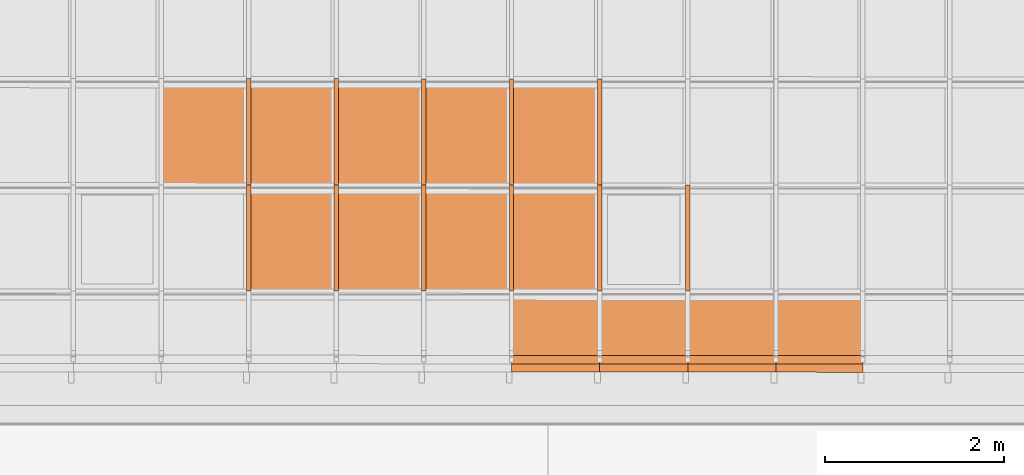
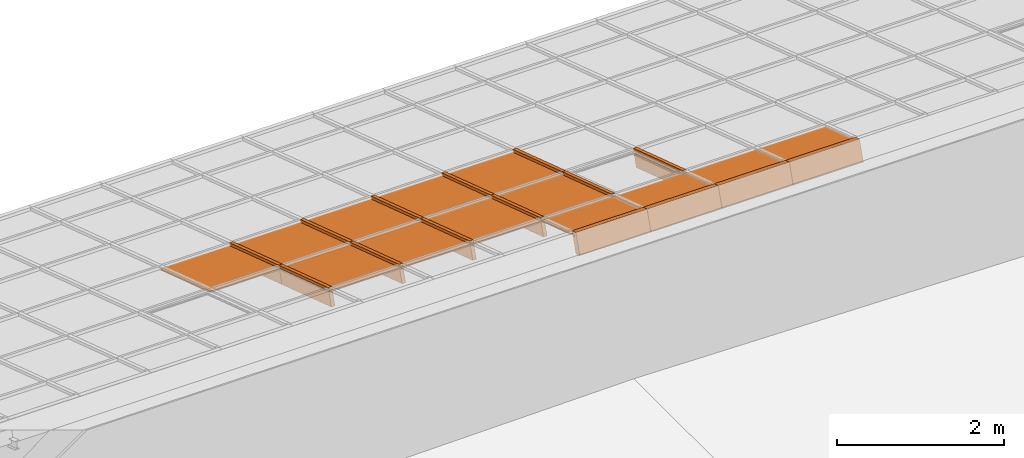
# One storey, part 34 of 47: 28 proxies, 1 element without a shape of its own.
"""IFC2X3 building model written with IfcOpenShell, lengths in millimetres."""

from ifc_helpers import new_model, entity, si_unit, converted_unit, derived_unit, money_unit, direction, frame, origin_with_axes, place, context, subcontext, project, spatial, polyline, outline, extrude, material, material_list, type_object, element, aggregate, save


model = new_model("IFC2X3")

# Units and contexts
model_context = context("Model", 3, precision=1e-05, world=origin_with_axes(), true_north=direction((0.0, 1.0)))
body_context = subcontext(model_context, "Body", "Model", "MODEL_VIEW")
ifc_project = project(units=[si_unit("LENGTHUNIT", "METRE", prefix="MILLI"), si_unit("AREAUNIT", "SQUARE_METRE"), si_unit("VOLUMEUNIT", "CUBIC_METRE"), converted_unit("PLANEANGLEUNIT", "DEGREE", entity("IfcPlaneAngleMeasure", 0.0174532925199), si_unit("PLANEANGLEUNIT", "RADIAN"), dimensions=[0, 0, 0, 0, 0, 0, 0]), si_unit("SOLIDANGLEUNIT", "STERADIAN"), money_unit("EUR"), converted_unit("TIMEUNIT", "Year", entity("IfcTimeMeasure", 31556926.0), si_unit("TIMEUNIT", "SECOND"), dimensions=[0, 0, 1, 0, 0, 0, 0]), si_unit("MASSUNIT", "GRAM", prefix="KILO"), si_unit("THERMODYNAMICTEMPERATUREUNIT", "DEGREE_CELSIUS"), si_unit("LUMINOUSINTENSITYUNIT", "LUMEN"), si_unit("ENERGYUNIT", "JOULE", prefix="MEGA"), derived_unit("THERMALCONDUCTANCEUNIT", [(si_unit("POWERUNIT", "WATT"), 1), (si_unit("LENGTHUNIT", "METRE"), -1), (si_unit("THERMODYNAMICTEMPERATUREUNIT", "KELVIN"), -1)]), derived_unit("SPECIFICHEATCAPACITYUNIT", [(si_unit("ENERGYUNIT", "JOULE"), 1), (si_unit("MASSUNIT", "GRAM", prefix="KILO"), -1), (si_unit("THERMODYNAMICTEMPERATUREUNIT", "KELVIN"), -1)]), derived_unit("MASSDENSITYUNIT", [(si_unit("MASSUNIT", "GRAM", prefix="KILO"), 1), (si_unit("VOLUMEUNIT", "CUBIC_METRE"), -1)])], contexts=[model_context])

# Site, building, storey
site_placement = place(None, origin_with_axes())
site = spatial("IfcSite", under=ifc_project, at=site_placement, Name="Site", CompositionType="ELEMENT")
building_placement = place(site_placement, origin_with_axes())
building = spatial("IfcBuilding", under=site, at=building_placement, Name="Building", CompositionType="ELEMENT")
storey_placement = place(building_placement, frame((0.0, 0.0, 6000.0), z_axis=(0.0, 0.0, 1.0), x_axis=(1.0, 0.0, 0.0)))
storey = spatial("IfcBuildingStorey", under=building, at=storey_placement, Name="KATUSEPLAAN", CompositionType="ELEMENT", Elevation=6000.0)

# Curtain wall, proxies
curtain_wall_type = type_object("IfcCurtainWallType", Name="KK-2", PredefinedType="NOTDEFINED")
curtain_wall_placement = place(storey_placement, frame((71638.1505463, 41358.6055567, 722.550081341), z_axis=(0.0, 0.0, 1.0), x_axis=(1.0, 0.0, 0.0)))
curtain_wall = element("IfcCurtainWall", 1, at=curtain_wall_placement, inside=storey, type_object=curtain_wall_type, Name="Talveaja klaaskatus")
ifc_material_1 = material(Name="Alumiinium (1)")
ifc_material_list = material_list([ifc_material_1, ifc_material_1])
building_element_proxy_type_1 = type_object("IfcBuildingElementProxyType", Name="Frame-Mll-595", PredefinedType="NOTDEFINED")
proxy_1_placement = place(curtain_wall_placement, frame((3429.9985464, 2850.739207, 1039.74580126), z_axis=(0.0, -0.950019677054, 0.312190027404), x_axis=(-0.999999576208, 0.000287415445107, 0.00087462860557)))
proxy_1 = element("IfcBuildingElementProxy", 2, at=proxy_1_placement, type_object=building_element_proxy_type_1, material=ifc_material_list, Name="Alumiinium (1);  Objekti nimi: Frame 22", context=body_context, shape_type="SweptSolid", body=[
    extrude(outline(polyline([(25.0091958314, 9.9769796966), (25.1841179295, 199.976899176), (-24.8158608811, 200.022931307), (-24.9907829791, 10.0230118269), (25.0091958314, 9.9769796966)])), frame((0.0, 0.0, 0.0), z_axis=(0.0, 0.0, 1.0), x_axis=(0.999999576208, 0.00092064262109, 0.0)), (0.0, 0.0, 1.0), 1250.0),
    extrude(outline(polyline([(-25.0091958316, -9.97697969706), (-25.0460215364, -49.9769627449), (24.9539572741, -50.0229948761), (24.9907829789, -10.0230118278), (-25.0091958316, -9.97697969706)])), frame((0.0, 0.0, 0.0), z_axis=(0.0, 0.0, 1.0), x_axis=(0.999999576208, 0.00092064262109, 0.0)), (0.0, 0.0, 1.0), 1250.0),
])
building_element_proxy_type_2 = type_object("IfcBuildingElementProxyType", Name="Frame-Mll-596", PredefinedType="NOTDEFINED")
proxy_2_placement = place(curtain_wall_placement, frame((4409.99813108, 2850.45753986, 1038.88866523), z_axis=(0.0, -0.950019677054, 0.312190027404), x_axis=(-0.999999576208, 0.000287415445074, 0.000874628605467)))
proxy_2 = element("IfcBuildingElementProxy", 3, at=proxy_2_placement, type_object=building_element_proxy_type_2, material=ifc_material_list, Name="Alumiinium (1);  Objekti nimi: Frame 22", context=body_context, shape_type="SweptSolid", body=[
    extrude(outline(polyline([(25.0091958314, 9.97697969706), (25.1841179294, 199.976899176), (-24.8158608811, 200.022931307), (-24.9907829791, 10.0230118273), (25.0091958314, 9.97697969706)])), frame((0.0, 0.0, -2.72848410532e-09), z_axis=(0.0, 0.0, 1.0), x_axis=(0.999999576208, 0.000920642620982, 0.0)), (0.0, 0.0, 1.0), 1250.0),
    extrude(outline(polyline([(-25.0091958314, -9.9769796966), (-25.0460215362, -49.9769627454), (24.9539572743, -50.0229948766), (24.9907829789, -10.0230118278), (-25.0091958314, -9.9769796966)])), frame((0.0, 0.0, -1.81898940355e-09), z_axis=(0.0, 0.0, 1.0), x_axis=(0.999999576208, 0.000920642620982, 0.0)), (0.0, 0.0, 1.0), 1250.0),
])
ifc_material_2 = material(Name="Klaas")
building_element_proxy_type_3 = type_object("IfcBuildingElementProxyType", Name="Panel-Main-163", PredefinedType="NOTDEFINED")
proxy_3_placement = place(curtain_wall_placement, frame((4902.99792215, 1069.02894957, 1623.81377471), z_axis=(0.0, 0.0, 1.0), x_axis=(-0.999995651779, 0.00294896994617, 0.0)))
proxy_3 = element("IfcBuildingElementProxy", 4, at=proxy_3_placement, type_object=building_element_proxy_type_3, material=ifc_material_2, Name="Klaas;  Objekti nimi: Built-in CW Panel", context=body_context, shape_type="SweptSolid", body=[
    extrude(outline(polyline([(491.233067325, -631.37870629), (491.247085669, -626.378729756), (496.247062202, -626.392729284), (499.749032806, 623.602363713), (494.749056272, 623.616363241), (494.7630558, 628.616358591), (-491.233080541, 631.37870629), (-491.247080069, 626.378710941), (-496.247075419, 626.392729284), (-499.749046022, -623.602344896), (-494.749050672, -623.61636324), (-494.763069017, -628.616339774), (491.233067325, -631.37870629)])), frame((0.0, -3.1219125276, 9.50019274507), z_axis=(0.0, 0.312191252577, -0.950019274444), x_axis=(1.0, 0.0, 0.0)), (0.0, 0.0, 1.0), 20.0000000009),
])
building_element_proxy_type_4 = type_object("IfcBuildingElementProxyType", Name="Panel-Main-107", PredefinedType="NOTDEFINED")
proxy_4_placement = place(curtain_wall_placement, frame((1959.99916937, 2257.39940954, 1236.15027244), z_axis=(0.0, 0.0, 1.0), x_axis=(-0.999995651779, 0.00294896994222, 0.0)))
proxy_4 = element("IfcBuildingElementProxy", 5, at=proxy_4_placement, type_object=building_element_proxy_type_4, material=ifc_material_2, Name="Klaas;  Objekti nimi: Built-in CW Panel", context=body_context, shape_type="SweptSolid", body=[
    extrude(outline(polyline([(488.23307956, -631.370301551), (488.247097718, -626.370316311), (493.247064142, -626.384334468), (496.749044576, 623.610771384), (491.749059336, 623.624770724), (491.763077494, 628.624755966), (-488.233069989, 631.370301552), (-488.247088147, 626.37031631), (-493.247073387, 626.384315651), (-496.749035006, -623.610752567), (-491.749049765, -623.624770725), (-491.763067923, -628.624755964), (488.23307956, -631.370301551)])), frame((0.0, -3.12191252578, 9.50019274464), z_axis=(0.0, 0.312191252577, -0.950019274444), x_axis=(1.0, 0.0, 0.0)), (0.0, 0.0, 1.0), 20.0000000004),
])
building_element_proxy_type_5 = type_object("IfcBuildingElementProxyType", Name="Panel-Dist-149", PredefinedType="NOTDEFINED")
proxy_5_placement = place(curtain_wall_placement, frame((979.999584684, 2257.68107668, 1237.00740847), z_axis=(0.0, 0.0, 1.0), x_axis=(-0.999995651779, 0.00294896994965, 0.0)))
proxy_5 = element("IfcBuildingElementProxy", 6, at=proxy_5_placement, type_object=building_element_proxy_type_5, material=ifc_material_2, Name="Klaas;  Objekti nimi: Built-in CW Panel", context=body_context, shape_type="SweptSolid", body=[
    extrude(outline(polyline([(488.233079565, -631.370301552), (488.247097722, -626.37031631), (493.247064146, -626.384334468), (496.749044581, 623.610771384), (491.749059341, 623.624770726), (491.763077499, 628.624755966), (-488.233069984, 631.37030155), (-488.247088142, 626.370316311), (-493.247073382, 626.384315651), (-496.749035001, -623.610752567), (-491.749049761, -623.624770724), (-491.763067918, -628.624755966), (488.233079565, -631.370301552)])), frame((1.13686837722e-10, -3.12191252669, 9.50019274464), z_axis=(0.0, 0.312191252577, -0.950019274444), x_axis=(1.0, 0.0, 0.0)), (0.0, 0.0, 1.0), 20.0000000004),
])
building_element_proxy_type_6 = type_object("IfcBuildingElementProxyType", Name="Panel-Dist-151", PredefinedType="NOTDEFINED")
proxy_6_placement = place(curtain_wall_placement, frame((4902.99792215, 2256.55354589, 1233.57624045), z_axis=(0.0, 0.0, 1.0), x_axis=(-0.999995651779, 0.00294896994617, 0.0)))
proxy_6 = element("IfcBuildingElementProxy", 7, at=proxy_6_placement, type_object=building_element_proxy_type_6, material=ifc_material_2, Name="Klaas;  Objekti nimi: Built-in CW Panel", context=body_context, shape_type="SweptSolid", body=[
    extrude(outline(polyline([(491.233067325, -631.378706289), (491.247085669, -626.378729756), (496.247062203, -626.392729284), (499.749032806, 623.602363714), (494.749056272, 623.616363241), (494.7630558, 628.616358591), (-491.233080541, 631.378706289), (-491.247080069, 626.37871094), (-496.247075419, 626.392729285), (-499.749046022, -623.602344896), (-494.749050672, -623.616363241), (-494.763069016, -628.616339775), (491.233067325, -631.378706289)])), frame((1.13686837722e-10, -3.12191252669, 9.50019274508), z_axis=(0.0, 0.312191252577, -0.950019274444), x_axis=(1.0, 0.0, 0.0)), (0.0, 0.0, 1.0), 20.0000000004),
])
building_element_proxy_type_7 = type_object("IfcBuildingElementProxyType", Name="Panel-Main-108", PredefinedType="NOTDEFINED")
proxy_7_placement = place(curtain_wall_placement, frame((3919.99833874, 2256.83607527, 1234.43600037), z_axis=(0.0, 0.0, 1.0), x_axis=(-0.999995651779, 0.00294896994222, 0.0)))
proxy_7 = element("IfcBuildingElementProxy", 8, at=proxy_7_placement, type_object=building_element_proxy_type_7, material=ifc_material_2, Name="Klaas;  Objekti nimi: Built-in CW Panel", context=body_context, shape_type="SweptSolid", body=[
    extrude(outline(polyline([(488.23307956, -631.370301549), (488.247078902, -626.370316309), (493.247082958, -626.384315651), (496.749044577, 623.610771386), (491.749059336, 623.624770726), (491.763077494, 628.624755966), (-488.233088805, 631.370301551), (-488.247088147, 626.370335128), (-493.247073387, 626.384334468), (-496.749035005, -623.610771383), (-491.749049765, -623.624770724), (-491.763067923, -628.624737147), (488.23307956, -631.370301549)])), frame((1.13686837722e-10, -3.12191252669, 9.50019274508), z_axis=(0.0, 0.312191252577, -0.950019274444), x_axis=(1.0, 0.0, 0.0)), (0.0, 0.0, 1.0), 20.0000000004),
])
building_element_proxy_type_8 = type_object("IfcBuildingElementProxyType", Name="Panel-Dist-150", PredefinedType="NOTDEFINED")
proxy_8_placement = place(curtain_wall_placement, frame((2939.99875405, 2257.11774241, 1235.2931364), z_axis=(0.0, 0.0, 1.0), x_axis=(-0.999995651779, 0.00294896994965, 0.0)))
proxy_8 = element("IfcBuildingElementProxy", 9, at=proxy_8_placement, type_object=building_element_proxy_type_8, material=ifc_material_2, Name="Klaas;  Objekti nimi: Built-in CW Panel", context=body_context, shape_type="SweptSolid", body=[
    extrude(outline(polyline([(488.233079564, -631.370301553), (488.247097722, -626.370316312), (493.247064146, -626.384334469), (496.749044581, 623.610771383), (491.74905934, 623.624770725), (491.763077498, 628.624755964), (-488.233069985, 631.37030155), (-488.247088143, 626.37031631), (-493.247073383, 626.384315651), (-496.749035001, -623.610752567), (-491.749049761, -623.624770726), (-491.763067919, -628.624755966), (488.233079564, -631.370301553)])), frame((0.0, -3.12191252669, 9.50019274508), z_axis=(0.0, 0.312191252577, -0.950019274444), x_axis=(1.0, 0.0, 0.0)), (0.0, 0.0, 1.0), 20.0000000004),
])
building_element_proxy_type_9 = type_object("IfcBuildingElementProxyType", Name="Panel-Main-165", PredefinedType="NOTDEFINED")
proxy_9_placement = place(curtain_wall_placement, frame((2939.99875405, 1069.59314609, 1625.53067066), z_axis=(0.0, 0.0, 1.0), x_axis=(-0.999995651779, 0.00294896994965, 0.0)))
proxy_9 = element("IfcBuildingElementProxy", 10, at=proxy_9_placement, type_object=building_element_proxy_type_9, material=ifc_material_2, Name="Klaas;  Objekti nimi: Built-in CW Panel", context=body_context, shape_type="SweptSolid", body=[
    extrude(outline(polyline([(488.233079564, -631.370301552), (488.247097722, -626.370316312), (493.247064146, -626.384334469), (496.749044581, 623.610771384), (491.74905934, 623.624770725), (491.763077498, 628.624755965), (-488.233069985, 631.37030155), (-488.247088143, 626.37031631), (-493.247073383, 626.384315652), (-496.749035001, -623.610752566), (-491.749049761, -623.624770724), (-491.763067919, -628.624755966), (488.233079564, -631.370301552)])), frame((0.0, -3.12191252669, 9.50019274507), z_axis=(0.0, 0.312191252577, -0.950019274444), x_axis=(1.0, 0.0, 0.0)), (0.0, 0.0, 1.0), 20.0000000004),
])
building_element_proxy_type_10 = type_object("IfcBuildingElementProxyType", Name="Panel-Main-215", PredefinedType="NOTDEFINED")
proxy_10_placement = place(curtain_wall_placement, frame((7854.49667133, -2.25750461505, 1972.99356414), z_axis=(0.0, 0.0, 1.0), x_axis=(-0.999995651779, 0.00294896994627, 0.0)))
proxy_10 = element("IfcBuildingElementProxy", 11, at=proxy_10_placement, type_object=building_element_proxy_type_10, material=ifc_material_2, Name="Klaas;  Objekti nimi: Built-in CW Panel", context=body_context, shape_type="SweptSolid", body=[
    extrude(outline(polyline([(490.647783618, -304.88309138), (492.903773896, 500.374714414), (487.903783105, 500.388720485), (487.917789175, 505.388681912), (-485.078383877, 508.114638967), (-485.092389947, 503.114648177), (-490.092366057, 503.128668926), (-492.348371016, -302.12915155), (-487.348380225, -302.143157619), (-487.292370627, -282.143238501), (485.703831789, -284.869180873), (485.647792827, -304.869085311), (490.647783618, -304.88309138)])), frame((1.13686837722e-10, -3.12191252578, 9.50019274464), z_axis=(0.0, 0.312191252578, -0.950019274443), x_axis=(1.0, 0.0, 0.0)), (0.0, 0.0, 1.0), 20.0000000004),
])
building_element_proxy_type_11 = type_object("IfcBuildingElementProxyType", Name="Panel-Main-166", PredefinedType="NOTDEFINED")
proxy_11_placement = place(curtain_wall_placement, frame((1959.99916937, 1069.87481323, 1626.38780669), z_axis=(0.0, 0.0, 1.0), x_axis=(-0.999995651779, 0.00294896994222, 0.0)))
proxy_11 = element("IfcBuildingElementProxy", 12, at=proxy_11_placement, type_object=building_element_proxy_type_11, material=ifc_material_2, Name="Klaas;  Objekti nimi: Built-in CW Panel", context=body_context, shape_type="SweptSolid", body=[
    extrude(outline(polyline([(488.23307956, -631.37030155), (488.247078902, -626.37031631), (493.247082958, -626.384315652), (496.749044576, 623.610771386), (491.749059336, 623.624770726), (491.763077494, 628.624755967), (-488.233088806, 631.370301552), (-488.247088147, 626.370335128), (-493.247073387, 626.384334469), (-496.749035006, -623.610771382), (-491.749049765, -623.624770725), (-491.763067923, -628.624737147), (488.23307956, -631.37030155)])), frame((0.0, -3.12191252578, 9.50019274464), z_axis=(0.0, 0.312191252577, -0.950019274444), x_axis=(1.0, 0.0, 0.0)), (0.0, 0.0, 1.0), 20.0000000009),
])
building_element_proxy_type_12 = type_object("IfcBuildingElementProxyType", Name="Panel-Main-164", PredefinedType="NOTDEFINED")
proxy_12_placement = place(curtain_wall_placement, frame((3919.99833874, 1069.31147895, 1624.67353462), z_axis=(0.0, 0.0, 1.0), x_axis=(-0.999995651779, 0.00294896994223, 0.0)))
proxy_12 = element("IfcBuildingElementProxy", 13, at=proxy_12_placement, type_object=building_element_proxy_type_12, material=ifc_material_2, Name="Klaas;  Objekti nimi: Built-in CW Panel", context=body_context, shape_type="SweptSolid", body=[
    extrude(outline(polyline([(488.23307956, -631.370301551), (488.247097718, -626.370316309), (493.247064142, -626.384334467), (496.749044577, 623.610771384), (491.749059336, 623.624770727), (491.763077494, 628.624755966), (-488.233069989, 631.370301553), (-488.247088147, 626.370316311), (-493.247073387, 626.384315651), (-496.749035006, -623.610752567), (-491.749049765, -623.624770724), (-491.763067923, -628.624755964), (488.23307956, -631.370301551)])), frame((0.0, -3.1219125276, 9.50019274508), z_axis=(0.0, 0.312191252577, -0.950019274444), x_axis=(1.0, 0.0, 0.0)), (0.0, 0.0, 1.0), 20.0000000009),
])
building_element_proxy_type_13 = type_object("IfcBuildingElementProxyType", Name="Panel-Main-217", PredefinedType="NOTDEFINED")
proxy_13_placement = place(curtain_wall_placement, frame((5888.99750429, -1.69258955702, 1974.71264667), z_axis=(0.0, 0.0, 1.0), x_axis=(-0.999995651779, 0.00294896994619, 0.0)))
proxy_13 = element("IfcBuildingElementProxy", 14, at=proxy_13_placement, type_object=building_element_proxy_type_13, material=ifc_material_2, Name="Klaas;  Objekti nimi: Built-in CW Panel", context=body_context, shape_type="SweptSolid", body=[
    extrude(outline(polyline([(497.147741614, -304.901316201), (499.403748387, 500.356503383), (494.403771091, 500.370515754), (494.417768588, 505.37049305), (-491.578349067, 508.132849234), (-491.592346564, 503.13287194), (-496.592353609, 503.14688431), (-498.848345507, -302.110935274), (-493.848368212, -302.124947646), (-493.792333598, -282.12502359), (492.203784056, -284.887394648), (492.147764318, -304.887303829), (497.147741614, -304.901316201)])), frame((0.0, -3.12191252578, 9.50019274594), z_axis=(0.0, 0.312191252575, -0.950019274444), x_axis=(1.0, 0.0, 0.0)), (0.0, 0.0, 1.0), 20.0000000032),
])
building_element_proxy_type_14 = type_object("IfcBuildingElementProxyType", Name="Panel-Main-216", PredefinedType="NOTDEFINED")
proxy_14_placement = place(curtain_wall_placement, frame((6874.99708643, -1.97598118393, 1973.85026286), z_axis=(0.0, 0.0, 1.0), x_axis=(-0.999995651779, 0.00294896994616, 0.0)))
proxy_14 = element("IfcBuildingElementProxy", 15, at=proxy_14_placement, type_object=building_element_proxy_type_14, material=ifc_material_2, Name="Klaas;  Objekti nimi: Built-in CW Panel", context=body_context, shape_type="SweptSolid", body=[
    extrude(outline(polyline([(497.147741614, -304.901316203), (499.403748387, 500.356503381), (494.403771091, 500.370515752), (494.417768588, 505.370493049), (-491.578349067, 508.132849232), (-491.592346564, 503.132871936), (-496.592353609, 503.146884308), (-498.848345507, -302.110935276), (-493.848368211, -302.12494765), (-493.792333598, -282.125023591), (492.203784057, -284.88739465), (492.147764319, -304.887303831), (497.147741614, -304.901316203)])), frame((1.13686837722e-10, -3.12191252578, 9.50019274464), z_axis=(0.0, 0.312191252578, -0.950019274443), x_axis=(1.0, 0.0, 0.0)), (0.0, 0.0, 1.0), 20.0000000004),
])
building_element_proxy_type_15 = type_object("IfcBuildingElementProxyType", Name="Panel-Main-218", PredefinedType="NOTDEFINED")
proxy_15_placement = place(curtain_wall_placement, frame((4902.99792215, -1.40919793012, 1975.57503047), z_axis=(0.0, 0.0, 1.0), x_axis=(-0.999995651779, 0.00294896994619, 0.0)))
proxy_15 = element("IfcBuildingElementProxy", 16, at=proxy_15_placement, type_object=building_element_proxy_type_15, material=ifc_material_2, Name="Klaas;  Objekti nimi: Built-in CW Panel", context=body_context, shape_type="SweptSolid", body=[
    extrude(outline(polyline([(497.147741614, -304.901316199), (499.403748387, 500.356503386), (494.403771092, 500.370515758), (494.417768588, 505.370493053), (-491.578349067, 508.132849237), (-491.592346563, 503.132857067), (-496.592353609, 503.146869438), (-498.848345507, -302.110935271), (-493.848368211, -302.124947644), (-493.792333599, -282.125038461), (492.203798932, -284.887379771), (492.147764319, -304.887318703), (497.147741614, -304.901316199)])), frame((1.13686837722e-10, -3.12191252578, 9.50019274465), z_axis=(0.0, 0.312191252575, -0.950019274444), x_axis=(1.0, 0.0, 0.0)), (0.0, 0.0, 1.0), 20.0000000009),
])
building_element_proxy_type_16 = type_object("IfcBuildingElementProxyType", Name="Frame-Mll-065", PredefinedType="NOTDEFINED")
proxy_16_placement = place(curtain_wall_placement, frame((6381.99729536, 1662.36616029, 1427.40143187), z_axis=(0.0, -0.950019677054, 0.312190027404), x_axis=(-0.999999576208, 0.000287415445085, 0.000874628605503)))
proxy_16 = element("IfcBuildingElementProxy", 17, at=proxy_16_placement, type_object=building_element_proxy_type_16, material=ifc_material_list, Name="Alumiinium (1);  Objekti nimi: Frame 22", context=body_context, shape_type="SweptSolid", body=[
    extrude(outline(polyline([(25.0091958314, 9.97697969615), (25.1841179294, 199.976899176), (-24.8158608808, 200.022931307), (-24.9907829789, 10.0230118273), (25.0091958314, 9.97697969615)])), frame((0.0, -4.54747350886e-10, -9.09494701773e-10), z_axis=(0.0, 0.0, 1.0), x_axis=(0.999999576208, 0.00092064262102, 0.0)), (0.0, 0.0, 1.0), 1250.0),
    extrude(outline(polyline([(-25.0091958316, -9.97697969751), (-25.0460215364, -49.9769627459), (24.9539572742, -50.0229948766), (24.990782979, -10.0230118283), (-25.0091958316, -9.97697969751)])), frame((0.0, -4.54747350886e-10, -1.81898940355e-09), z_axis=(0.0, 0.0, 1.0), x_axis=(0.999999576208, 0.00092064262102, 0.0)), (0.0, 0.0, 1.0), 1250.0),
])
building_element_proxy_type_17 = type_object("IfcBuildingElementProxyType", Name="Frame-Mll-594", PredefinedType="NOTDEFINED")
proxy_17_placement = place(curtain_wall_placement, frame((2449.99896171, 2851.02087414, 1040.60293729), z_axis=(0.0, -0.950019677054, 0.312190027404), x_axis=(-0.999999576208, 0.000287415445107, 0.00087462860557)))
proxy_17 = element("IfcBuildingElementProxy", 18, at=proxy_17_placement, type_object=building_element_proxy_type_17, material=ifc_material_list, Name="Alumiinium (1);  Objekti nimi: Frame 22", context=body_context, shape_type="SweptSolid", body=[
    extrude(outline(polyline([(25.0091958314, 9.9769796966), (25.1841179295, 199.976899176), (-24.8158608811, 200.022931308), (-24.9907829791, 10.0230118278), (25.0091958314, 9.9769796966)])), frame((0.0, 0.0, 0.0), z_axis=(0.0, 0.0, 1.0), x_axis=(0.999999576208, 0.00092064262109, 0.0)), (0.0, 0.0, 1.0), 1250.0),
    extrude(outline(polyline([(-25.0091958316, -9.9769796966), (-25.0460215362, -49.9769627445), (24.9539572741, -50.0229948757), (24.990782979, -10.0230118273), (-25.0091958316, -9.9769796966)])), frame((0.0, 0.0, 0.0), z_axis=(0.0, 0.0, 1.0), x_axis=(0.999999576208, 0.00092064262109, 0.0)), (0.0, 0.0, 1.0), 1250.0),
])
building_element_proxy_type_18 = type_object("IfcBuildingElementProxyType", Name="Frame-Mll-593", PredefinedType="NOTDEFINED")
proxy_18_placement = place(curtain_wall_placement, frame((1469.99937703, 2851.30254127, 1041.46007333), z_axis=(0.0, -0.950019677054, 0.312190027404), x_axis=(-0.999999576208, 0.000287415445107, 0.00087462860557)))
proxy_18 = element("IfcBuildingElementProxy", 19, at=proxy_18_placement, type_object=building_element_proxy_type_18, material=ifc_material_list, Name="Alumiinium (1);  Objekti nimi: Frame 22", context=body_context, shape_type="SweptSolid", body=[
    extrude(outline(polyline([(25.0091958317, 9.97697969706), (25.1841179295, 199.976899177), (-24.8158608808, 200.022931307), (-24.9907829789, 10.0230118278), (25.0091958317, 9.97697969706)])), frame((0.0, 0.0, 0.0), z_axis=(0.0, 0.0, 1.0), x_axis=(0.999999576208, 0.00092064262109, 0.0)), (0.0, 0.0, 1.0), 1250.0),
    extrude(outline(polyline([(-25.0091958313, -9.9769796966), (-25.046021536, -49.9769627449), (24.9539572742, -50.0229948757), (24.9907829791, -10.0230118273), (-25.0091958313, -9.9769796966)])), frame((0.0, 0.0, -9.09494701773e-10), z_axis=(0.0, 0.0, 1.0), x_axis=(0.999999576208, 0.00092064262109, 0.0)), (0.0, 0.0, 1.0), 1250.0),
])
building_element_proxy_type_19 = type_object("IfcBuildingElementProxyType", Name="Frame-Mll-064", PredefinedType="NOTDEFINED")
proxy_19_placement = place(curtain_wall_placement, frame((5395.99771322, 1662.64955192, 1428.26381568), z_axis=(0.0, -0.950019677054, 0.312190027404), x_axis=(-0.999999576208, 0.000287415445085, 0.000874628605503)))
proxy_19 = element("IfcBuildingElementProxy", 20, at=proxy_19_placement, type_object=building_element_proxy_type_19, material=ifc_material_list, Name="Alumiinium (1);  Objekti nimi: Frame 22", context=body_context, shape_type="SweptSolid", body=[
    extrude(outline(polyline([(25.0091958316, 9.9769796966), (25.1841179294, 199.976899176), (-24.8158608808, 200.022931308), (-24.990782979, 10.0230118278), (25.0091958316, 9.9769796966)])), frame((0.0, 4.54747350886e-10, -2.72848410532e-09), z_axis=(0.0, 0.0, 1.0), x_axis=(0.999999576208, 0.000920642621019, 0.0)), (0.0, 0.0, 1.0), 1250.0),
    extrude(outline(polyline([(-25.0091958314, -9.97697969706), (-25.0460215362, -49.9769627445), (24.9539572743, -50.0229948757), (24.9907829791, -10.0230118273), (-25.0091958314, -9.97697969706)])), frame((0.0, 0.0, 0.0), z_axis=(0.0, 0.0, 1.0), x_axis=(0.999999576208, 0.000920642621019, 0.0)), (0.0, 0.0, 1.0), 1250.0),
])
building_element_proxy_type_20 = type_object("IfcBuildingElementProxyType", Name="Frame-Mll-597", PredefinedType="NOTDEFINED")
proxy_20_placement = place(curtain_wall_placement, frame((5395.99771322, 2850.17414823, 1038.02628142), z_axis=(0.0, -0.950019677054, 0.312190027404), x_axis=(-0.999999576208, 0.000287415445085, 0.000874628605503)))
proxy_20 = element("IfcBuildingElementProxy", 21, at=proxy_20_placement, type_object=building_element_proxy_type_20, material=ifc_material_list, Name="Alumiinium (1);  Objekti nimi: Frame 22", context=body_context, shape_type="SweptSolid", body=[
    extrude(outline(polyline([(25.0091958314, 9.97697969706), (25.1841179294, 199.976899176), (-24.8158608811, 200.022931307), (-24.9907829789, 10.0230118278), (25.0091958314, 9.97697969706)])), frame((0.0, -4.54747350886e-10, -1.81898940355e-09), z_axis=(0.0, 0.0, 1.0), x_axis=(0.999999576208, 0.00092064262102, 0.0)), (0.0, 0.0, 1.0), 1250.0),
    extrude(outline(polyline([(-25.0091958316, -9.9769796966), (-25.0460215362, -49.9769627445), (24.9539572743, -50.0229948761), (24.9907829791, -10.0230118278), (-25.0091958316, -9.9769796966)])), frame((0.0, 0.0, -9.09494701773e-10), z_axis=(0.0, 0.0, 1.0), x_axis=(0.999999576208, 0.00092064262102, 0.0)), (0.0, 0.0, 1.0), 1250.0),
])
building_element_proxy_type_21 = type_object("IfcBuildingElementProxyType", Name="Frame-Mll-061", PredefinedType="NOTDEFINED")
proxy_21_placement = place(curtain_wall_placement, frame((2449.99896171, 1663.49627782, 1430.84047155), z_axis=(0.0, -0.950019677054, 0.312190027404), x_axis=(-0.999999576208, 0.000287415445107, 0.00087462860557)))
proxy_21 = element("IfcBuildingElementProxy", 22, at=proxy_21_placement, type_object=building_element_proxy_type_21, material=ifc_material_list, Name="Alumiinium (1);  Objekti nimi: Frame 22", context=body_context, shape_type="SweptSolid", body=[
    extrude(outline(polyline([(25.0091958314, 9.9769796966), (25.1841179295, 199.976899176), (-24.8158608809, 200.022931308), (-24.990782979, 10.0230118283), (25.0091958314, 9.9769796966)])), frame((0.0, 0.0, 0.0), z_axis=(0.0, 0.0, 1.0), x_axis=(0.999999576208, 0.00092064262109, 0.0)), (0.0, 0.0, 1.0), 1250.0),
    extrude(outline(polyline([(-25.0091958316, -9.9769796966), (-25.0460215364, -49.9769627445), (24.9539572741, -50.0229948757), (24.990782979, -10.0230118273), (-25.0091958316, -9.9769796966)])), frame((0.0, 0.0, 0.0), z_axis=(0.0, 0.0, 1.0), x_axis=(0.999999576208, 0.00092064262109, 0.0)), (0.0, 0.0, 1.0), 1250.0),
])
building_element_proxy_type_22 = type_object("IfcBuildingElementProxyType", Name="Frame-Mll-060", PredefinedType="NOTDEFINED")
proxy_22_placement = place(curtain_wall_placement, frame((1469.99937703, 1663.77794495, 1431.69760758), z_axis=(0.0, -0.950019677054, 0.312190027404), x_axis=(-0.999999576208, 0.000287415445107, 0.00087462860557)))
proxy_22 = element("IfcBuildingElementProxy", 23, at=proxy_22_placement, type_object=building_element_proxy_type_22, material=ifc_material_list, Name="Alumiinium (1);  Objekti nimi: Frame 22", context=body_context, shape_type="SweptSolid", body=[
    extrude(outline(polyline([(25.0091958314, 9.97697969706), (25.1841179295, 199.976899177), (-24.8158608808, 200.022931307), (-24.9907829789, 10.0230118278), (25.0091958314, 9.97697969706)])), frame((0.0, 4.54747350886e-10, -1.81898940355e-09), z_axis=(0.0, 0.0, 1.0), x_axis=(0.999999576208, 0.00092064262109, 0.0)), (0.0, 0.0, 1.0), 1250.0),
    extrude(outline(polyline([(-25.0091958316, -9.97697969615), (-25.0460215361, -49.9769627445), (24.9539572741, -50.0229948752), (24.990782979, -10.0230118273), (-25.0091958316, -9.97697969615)])), frame((0.0, 4.54747350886e-10, -1.81898940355e-09), z_axis=(0.0, 0.0, 1.0), x_axis=(0.999999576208, 0.00092064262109, 0.0)), (0.0, 0.0, 1.0), 1250.0),
])
building_element_proxy_type_23 = type_object("IfcBuildingElementProxyType", Name="Frame-Bnd-651", PredefinedType="NOTDEFINED")
proxy_23_placement = place(curtain_wall_placement, frame((5395.99771322, -289.888818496, 2069.89579666), z_axis=(-0.999999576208, 0.000287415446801, 0.000874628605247), x_axis=(0.0, 0.950019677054, -0.312190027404)))
proxy_23 = element("IfcBuildingElementProxy", 24, at=proxy_23_placement, type_object=building_element_proxy_type_23, material=ifc_material_1, Name="Alumiinium (1);  Objekti nimi: Built-in Frame", context=body_context, shape_type="SweptSolid", body=[
    extrude(outline(polyline([(15.8784912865, 15.7439993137), (44.379080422, 25.1097037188), (-30.5465548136, 253.114416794), (-125.548518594, 221.895402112), (-31.8914745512, -63.1104892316), (63.1104892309, -31.8914745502), (50.6228833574, 6.10931096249), (22.1222942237, -3.25639344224), (15.8784912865, 15.7439993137)])), frame((0.0, 0.0, -5.68434188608e-10), z_axis=(0.0, 0.0, 1.0), x_axis=(0.950019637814, -0.312190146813, 0.0)), (0.0, 0.0, 1.0), 986.000000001),
])
building_element_proxy_type_24 = type_object("IfcBuildingElementProxyType", Name="Frame-Mll-062", PredefinedType="NOTDEFINED")
proxy_24_placement = place(curtain_wall_placement, frame((3429.9985464, 1663.21461068, 1429.98333551), z_axis=(0.0, -0.950019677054, 0.312190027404), x_axis=(-0.999999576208, 0.000287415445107, 0.00087462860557)))
proxy_24 = element("IfcBuildingElementProxy", 25, at=proxy_24_placement, type_object=building_element_proxy_type_24, material=ifc_material_list, Name="Alumiinium (1);  Objekti nimi: Frame 22", context=body_context, shape_type="SweptSolid", body=[
    extrude(outline(polyline([(25.0091958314, 9.9769796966), (25.1841179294, 199.976899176), (-24.8158608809, 200.022931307), (-24.9907829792, 10.0230118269), (25.0091958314, 9.9769796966)])), frame((0.0, 0.0, 0.0), z_axis=(0.0, 0.0, 1.0), x_axis=(0.999999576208, 0.00092064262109, 0.0)), (0.0, 0.0, 1.0), 1250.0),
    extrude(outline(polyline([(-25.0091958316, -9.97697969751), (-25.0460215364, -49.9769627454), (24.9539572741, -50.0229948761), (24.9907829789, -10.0230118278), (-25.0091958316, -9.97697969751)])), frame((0.0, 0.0, 0.0), z_axis=(0.0, 0.0, 1.0), x_axis=(0.999999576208, 0.00092064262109, 0.0)), (0.0, 0.0, 1.0), 1250.0),
])
building_element_proxy_type_25 = type_object("IfcBuildingElementProxyType", Name="Frame-Mll-063", PredefinedType="NOTDEFINED")
proxy_25_placement = place(curtain_wall_placement, frame((4409.99813108, 1662.93294355, 1429.12619948), z_axis=(0.0, -0.950019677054, 0.312190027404), x_axis=(-0.999999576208, 0.000287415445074, 0.000874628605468)))
proxy_25 = element("IfcBuildingElementProxy", 26, at=proxy_25_placement, type_object=building_element_proxy_type_25, material=ifc_material_list, Name="Alumiinium (1);  Objekti nimi: Frame 22", context=body_context, shape_type="SweptSolid", body=[
    extrude(outline(polyline([(25.0091958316, 9.9769796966), (25.1841179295, 199.976899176), (-24.8158608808, 200.022931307), (-24.9907829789, 10.0230118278), (25.0091958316, 9.9769796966)])), frame((0.0, 0.0, 0.0), z_axis=(0.0, 0.0, 1.0), x_axis=(0.999999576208, 0.000920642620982, 0.0)), (0.0, 0.0, 1.0), 1250.0),
    extrude(outline(polyline([(-25.0091958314, -9.97697969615), (-25.0460215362, -49.9769627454), (24.9539572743, -50.0229948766), (24.990782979, -10.0230118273), (-25.0091958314, -9.97697969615)])), frame((0.0, 0.0, 0.0), z_axis=(0.0, 0.0, 1.0), x_axis=(0.999999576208, 0.000920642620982, 0.0)), (0.0, 0.0, 1.0), 1250.0),
])
building_element_proxy_type_26 = type_object("IfcBuildingElementProxyType", Name="Frame-Bnd-649", PredefinedType="NOTDEFINED")
proxy_26_placement = place(curtain_wall_placement, frame((7367.9968775, -290.455601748, 2068.17102905), z_axis=(-0.999999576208, 0.000287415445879, 0.00087462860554), x_axis=(0.0, 0.950019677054, -0.312190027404)))
proxy_26 = element("IfcBuildingElementProxy", 27, at=proxy_26_placement, type_object=building_element_proxy_type_26, material=ifc_material_1, Name="Alumiinium (1);  Objekti nimi: Built-in Frame", context=body_context, shape_type="SweptSolid", body=[
    extrude(outline(polyline([(15.8784912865, 15.7439993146), (44.3790804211, 25.1097037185), (-30.5465548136, 253.114416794), (-125.548518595, 221.895402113), (-31.8914745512, -63.1104892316), (63.11048923, -31.8914745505), (50.6228833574, 6.10931096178), (22.1222942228, -3.25639344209), (15.8784912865, 15.7439993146)])), frame((0.0, 0.0, -1.13686837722e-10), z_axis=(0.0, 0.0, 1.0), x_axis=(0.950019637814, -0.312190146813, 0.0)), (0.0, 0.0, 1.0), 986.000000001),
])
building_element_proxy_type_27 = type_object("IfcBuildingElementProxyType", Name="Frame-Bnd-650", PredefinedType="NOTDEFINED")
proxy_27_placement = place(curtain_wall_placement, frame((6381.99729536, -290.172210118, 2069.03341286), z_axis=(-0.999999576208, 0.0002874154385, 0.000874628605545), x_axis=(0.0, 0.950019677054, -0.312190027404)))
proxy_27 = element("IfcBuildingElementProxy", 28, at=proxy_27_placement, type_object=building_element_proxy_type_27, material=ifc_material_1, Name="Alumiinium (1);  Objekti nimi: Built-in Frame", context=body_context, shape_type="SweptSolid", body=[
    extrude(outline(polyline([(15.8784912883, 15.7439993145), (44.3790804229, 25.1097037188), (-30.5465548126, 253.114416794), (-125.548518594, 221.895402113), (-31.8914745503, -63.1104892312), (63.1104892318, -31.8914745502), (50.6228833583, 6.10931096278), (22.1222942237, -3.25639344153), (15.8784912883, 15.7439993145)])), frame((0.0, 0.0, -5.68434188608e-10), z_axis=(0.0, 0.0, 1.0), x_axis=(0.950019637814, -0.312190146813, 0.0)), (0.0, 0.0, 1.0), 986.000000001),
])
building_element_proxy_type_28 = type_object("IfcBuildingElementProxyType", Name="Frame-Bnd-648", PredefinedType="NOTDEFINED")
proxy_28_placement = place(curtain_wall_placement, frame((8340.99646516, -290.735256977, 2067.32001542), z_axis=(-0.999999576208, 0.000287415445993, 0.000874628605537), x_axis=(0.0, 0.950019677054, -0.312190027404)))
proxy_28 = element("IfcBuildingElementProxy", 29, at=proxy_28_placement, type_object=building_element_proxy_type_28, material=ifc_material_1, Name="Alumiinium (1);  Objekti nimi: Built-in Frame", context=body_context, shape_type="SweptSolid", body=[
    extrude(outline(polyline([(15.8784912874, 15.743999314), (44.379080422, 25.1097037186), (-30.5465548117, 253.114416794), (-125.548518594, 221.895402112), (-31.8914745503, -63.1104892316), (63.1104892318, -31.8914745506), (50.6228833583, 6.10931096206), (22.1222942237, -3.25639344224), (15.8784912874, 15.743999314)])), frame((0.0, 0.0, -3.41060513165e-10), z_axis=(0.0, 0.0, 1.0), x_axis=(0.950019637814, -0.312190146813, 0.0)), (0.0, 0.0, 1.0), 973.0),
])
aggregate(curtain_wall, [proxy_3, proxy_4, proxy_5, proxy_6, proxy_7, proxy_8, proxy_9, proxy_10, proxy_11, proxy_12, proxy_13, proxy_14, proxy_15, proxy_16, proxy_2, proxy_1, proxy_17, proxy_18, proxy_19, proxy_20, proxy_21, proxy_22, proxy_23, proxy_24, proxy_25, proxy_26, proxy_27, proxy_28])

save(model, "model.ifc")
